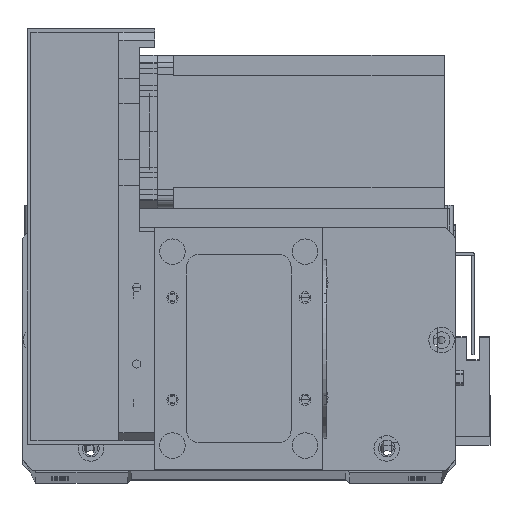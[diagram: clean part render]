
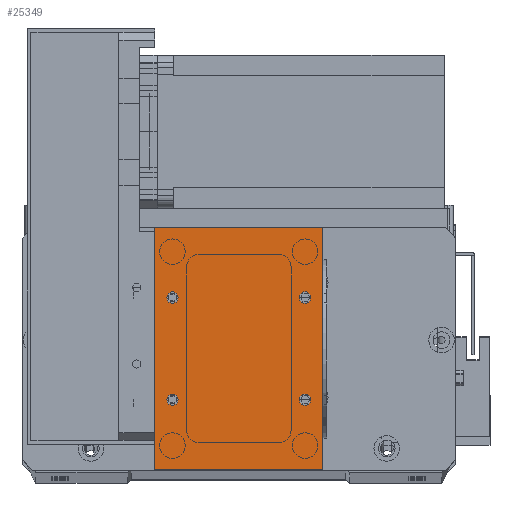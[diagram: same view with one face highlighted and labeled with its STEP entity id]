
A CAD part, top view. The second image highlights one B-rep face of the part: STEP entity #25349.
In plain terms, the highlighted planar face has unit normal (0, 0, 1).
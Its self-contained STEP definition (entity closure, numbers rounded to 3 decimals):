
#201 = DIRECTION ( 'NONE',  ( 1., 0., 0. ) ) ;
#218 = CARTESIAN_POINT ( 'NONE',  ( 7., 67.5, 2. ) ) ;
#242 = EDGE_CURVE ( 'NONE', #11322, #6371, #19732, .T. ) ;
#483 = EDGE_LOOP ( 'NONE', ( #4042, #14539 ) ) ;
#640 = FACE_BOUND ( 'NONE', #19522, .T. ) ;
#1166 = EDGE_CURVE ( 'NONE', #7545, #23959, #19310, .T. ) ;
#1176 = ORIENTED_EDGE ( 'NONE', *, *, #22606, .F. ) ;
#1186 = CARTESIAN_POINT ( 'NONE',  ( 59., 27.5, 2. ) ) ;
#1811 = DIRECTION ( 'NONE',  ( 0., 0., 1. ) ) ;
#2483 = CIRCLE ( 'NONE', #6741, 2.25 ) ;
#3104 = CARTESIAN_POINT ( 'NONE',  ( 59., 27.5, 2. ) ) ;
#3110 = CARTESIAN_POINT ( 'NONE',  ( 9.25, 67.5, 2. ) ) ;
#3811 = EDGE_CURVE ( 'NONE', #28108, #14630, #9013, .T. ) ;
#3813 = DIRECTION ( 'NONE',  ( 1., 0., 0. ) ) ;
#3867 = AXIS2_PLACEMENT_3D ( 'NONE', #17524, #1811, #20165 ) ;
#4042 = ORIENTED_EDGE ( 'NONE', *, *, #15701, .F. ) ;
#5064 = DIRECTION ( 'NONE',  ( 0., 0., 1. ) ) ;
#5089 = CIRCLE ( 'NONE', #30475, 2.25 ) ;
#5106 = VECTOR ( 'NONE', #26761, 1000. ) ;
#5729 = DIRECTION ( 'NONE',  ( 1., 0., 0. ) ) ;
#5786 = DIRECTION ( 'NONE',  ( 1., 0., 0. ) ) ;
#6371 = VERTEX_POINT ( 'NONE', #3110 ) ;
#6457 = ORIENTED_EDGE ( 'NONE', *, *, #1166, .F. ) ;
#6552 = EDGE_CURVE ( 'NONE', #8427, #9986, #21553, .T. ) ;
#6741 = AXIS2_PLACEMENT_3D ( 'NONE', #31504, #15880, #201 ) ;
#7545 = VERTEX_POINT ( 'NONE', #18406 ) ;
#7695 = CARTESIAN_POINT ( 'NONE',  ( 56.75, 27.5, 2. ) ) ;
#7912 = ORIENTED_EDGE ( 'NONE', *, *, #18915, .T. ) ;
#8371 = FACE_BOUND ( 'NONE', #26227, .T. ) ;
#8427 = VERTEX_POINT ( 'NONE', #29815 ) ;
#8458 = CARTESIAN_POINT ( 'NONE',  ( 0., 95., 2. ) ) ;
#9013 = CIRCLE ( 'NONE', #30718, 2.25 ) ;
#9014 = CARTESIAN_POINT ( 'NONE',  ( 0., 0., 2. ) ) ;
#9085 = VERTEX_POINT ( 'NONE', #33116 ) ;
#9986 = VERTEX_POINT ( 'NONE', #26636 ) ;
#10040 = CARTESIAN_POINT ( 'NONE',  ( 59., 67.5, 2. ) ) ;
#10854 = CIRCLE ( 'NONE', #13839, 2.25 ) ;
#11322 = VERTEX_POINT ( 'NONE', #31434 ) ;
#11418 = ORIENTED_EDGE ( 'NONE', *, *, #20825, .T. ) ;
#11457 = LINE ( 'NONE', #17039, #31524 ) ;
#11636 = EDGE_LOOP ( 'NONE', ( #12631, #11418, #22340, #7912 ) ) ;
#11732 = AXIS2_PLACEMENT_3D ( 'NONE', #3104, #21396, #5729 ) ;
#11754 = DIRECTION ( 'NONE',  ( 0., 1., 0. ) ) ;
#12043 = LINE ( 'NONE', #8458, #5106 ) ;
#12631 = ORIENTED_EDGE ( 'NONE', *, *, #22296, .T. ) ;
#12701 = DIRECTION ( 'NONE',  ( 1., 0., 0. ) ) ;
#13839 = AXIS2_PLACEMENT_3D ( 'NONE', #30931, #15307, #33572 ) ;
#14296 = AXIS2_PLACEMENT_3D ( 'NONE', #14932, #33183, #17582 ) ;
#14539 = ORIENTED_EDGE ( 'NONE', *, *, #242, .F. ) ;
#14553 = FACE_OUTER_BOUND ( 'NONE', #11636, .T. ) ;
#14605 = VECTOR ( 'NONE', #11754, 1000. ) ;
#14630 = VERTEX_POINT ( 'NONE', #24790 ) ;
#14655 = CIRCLE ( 'NONE', #11732, 2.25 ) ;
#14932 = CARTESIAN_POINT ( 'NONE',  ( 0., 0., 2. ) ) ;
#15307 = DIRECTION ( 'NONE',  ( 0., 0., 1. ) ) ;
#15701 = EDGE_CURVE ( 'NONE', #6371, #11322, #26155, .T. ) ;
#15880 = DIRECTION ( 'NONE',  ( 0., 0., 1. ) ) ;
#17039 = CARTESIAN_POINT ( 'NONE',  ( 0., 0., 2. ) ) ;
#17524 = CARTESIAN_POINT ( 'NONE',  ( 7., 67.5, 2. ) ) ;
#17582 = DIRECTION ( 'NONE',  ( -1., 0., 0. ) ) ;
#17720 = CARTESIAN_POINT ( 'NONE',  ( 61.25, 67.5, 2. ) ) ;
#17902 = ORIENTED_EDGE ( 'NONE', *, *, #30663, .F. ) ;
#18406 = CARTESIAN_POINT ( 'NONE',  ( 4.75, 27.5, 2. ) ) ;
#18445 = DIRECTION ( 'NONE',  ( 0., 0., 1. ) ) ;
#18581 = EDGE_LOOP ( 'NONE', ( #17902, #31359 ) ) ;
#18866 = CARTESIAN_POINT ( 'NONE',  ( 56.75, 67.5, 2. ) ) ;
#18915 = EDGE_CURVE ( 'NONE', #9986, #9085, #12043, .T. ) ;
#19270 = CARTESIAN_POINT ( 'NONE',  ( 0., 0., 2. ) ) ;
#19310 = CIRCLE ( 'NONE', #21465, 2.25 ) ;
#19502 = DIRECTION ( 'NONE',  ( 0., 0., 1. ) ) ;
#19522 = EDGE_LOOP ( 'NONE', ( #33452, #32951 ) ) ;
#19732 = CIRCLE ( 'NONE', #22050, 2.25 ) ;
#19754 = VECTOR ( 'NONE', #24704, 1000. ) ;
#20165 = DIRECTION ( 'NONE',  ( 1., 0., 0. ) ) ;
#20719 = FACE_BOUND ( 'NONE', #18581, .T. ) ;
#20767 = CARTESIAN_POINT ( 'NONE',  ( 7., 27.5, 2. ) ) ;
#20825 = EDGE_CURVE ( 'NONE', #25649, #8427, #33615, .T. ) ;
#21396 = DIRECTION ( 'NONE',  ( 0., 0., 1. ) ) ;
#21465 = AXIS2_PLACEMENT_3D ( 'NONE', #20767, #5064, #23383 ) ;
#21553 = LINE ( 'NONE', #27437, #14605 ) ;
#22050 = AXIS2_PLACEMENT_3D ( 'NONE', #218, #18445, #5786 ) ;
#22204 = CARTESIAN_POINT ( 'NONE',  ( 9.25, 27.5, 2. ) ) ;
#22296 = EDGE_CURVE ( 'NONE', #9085, #25649, #11457, .T. ) ;
#22340 = ORIENTED_EDGE ( 'NONE', *, *, #6552, .T. ) ;
#22606 = EDGE_CURVE ( 'NONE', #23959, #7545, #2483, .T. ) ;
#23383 = DIRECTION ( 'NONE',  ( 1., 0., 0. ) ) ;
#23959 = VERTEX_POINT ( 'NONE', #22204 ) ;
#24704 = DIRECTION ( 'NONE',  ( 1., 0., 0. ) ) ;
#24761 = EDGE_CURVE ( 'NONE', #33144, #25060, #10854, .T. ) ;
#24790 = CARTESIAN_POINT ( 'NONE',  ( 61.25, 27.5, 2. ) ) ;
#25060 = VERTEX_POINT ( 'NONE', #18866 ) ;
#25333 = PLANE ( 'NONE',  #14296 ) ;
#25349 = ADVANCED_FACE ( 'NONE', ( #27627, #640, #20719, #8371, #14553 ), #25333, .F. ) ;
#25649 = VERTEX_POINT ( 'NONE', #19270 ) ;
#25939 = EDGE_CURVE ( 'NONE', #25060, #33144, #5089, .T. ) ;
#26155 = CIRCLE ( 'NONE', #3867, 2.25 ) ;
#26227 = EDGE_LOOP ( 'NONE', ( #1176, #6457 ) ) ;
#26636 = CARTESIAN_POINT ( 'NONE',  ( 66., 95., 2. ) ) ;
#26761 = DIRECTION ( 'NONE',  ( -1., 0., 0. ) ) ;
#27437 = CARTESIAN_POINT ( 'NONE',  ( 66., 0., 2. ) ) ;
#27627 = FACE_BOUND ( 'NONE', #483, .T. ) ;
#28108 = VERTEX_POINT ( 'NONE', #7695 ) ;
#28364 = DIRECTION ( 'NONE',  ( 0., 0., 1. ) ) ;
#29815 = CARTESIAN_POINT ( 'NONE',  ( 66., 0., 2. ) ) ;
#30475 = AXIS2_PLACEMENT_3D ( 'NONE', #10040, #28364, #12701 ) ;
#30663 = EDGE_CURVE ( 'NONE', #14630, #28108, #14655, .T. ) ;
#30718 = AXIS2_PLACEMENT_3D ( 'NONE', #1186, #19502, #3813 ) ;
#30931 = CARTESIAN_POINT ( 'NONE',  ( 59., 67.5, 2. ) ) ;
#31359 = ORIENTED_EDGE ( 'NONE', *, *, #3811, .F. ) ;
#31434 = CARTESIAN_POINT ( 'NONE',  ( 4.75, 67.5, 2. ) ) ;
#31504 = CARTESIAN_POINT ( 'NONE',  ( 7., 27.5, 2. ) ) ;
#31524 = VECTOR ( 'NONE', #32678, 1000. ) ;
#32678 = DIRECTION ( 'NONE',  ( 0., -1., 0. ) ) ;
#32951 = ORIENTED_EDGE ( 'NONE', *, *, #25939, .F. ) ;
#33116 = CARTESIAN_POINT ( 'NONE',  ( 0., 95., 2. ) ) ;
#33144 = VERTEX_POINT ( 'NONE', #17720 ) ;
#33183 = DIRECTION ( 'NONE',  ( 0., 0., -1. ) ) ;
#33452 = ORIENTED_EDGE ( 'NONE', *, *, #24761, .F. ) ;
#33572 = DIRECTION ( 'NONE',  ( 1., 0., 0. ) ) ;
#33615 = LINE ( 'NONE', #9014, #19754 ) ;
